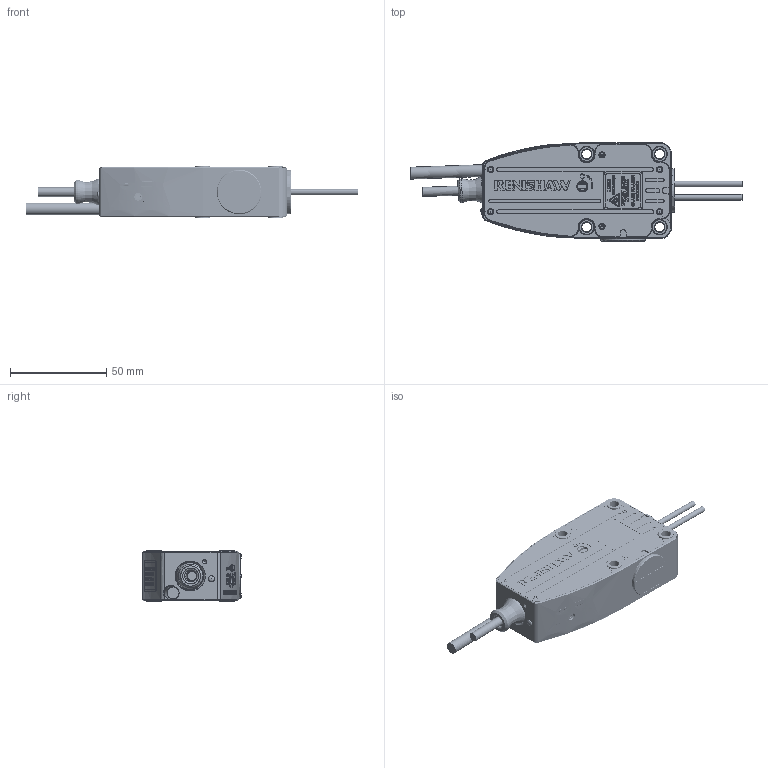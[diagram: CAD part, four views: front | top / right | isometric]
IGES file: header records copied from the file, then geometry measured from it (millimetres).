
Global section: file name: /home/users/pf123904/RLD10-A3-X0.igs; native system: Unigraphics Version X V1.0; preprocessor: Unigraphics NX IGES V1.0; date: 20040806.153533; units: millimetre
Bounding box: 172.85 x 51.4 x 27 mm (x, y, z)
Surface area: 24834.8 mm2 (no closed solid volume)
Topology: 0 solids, 0 shells, 4508 faces, 29552 edges, 29431 vertices
Faces by surface type: extrusion 3879, revolution 629
